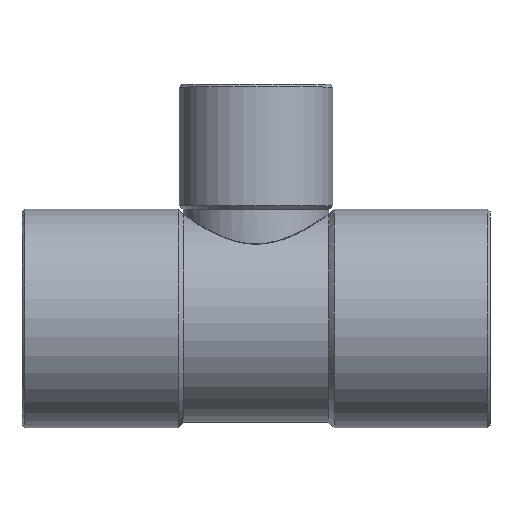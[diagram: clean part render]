
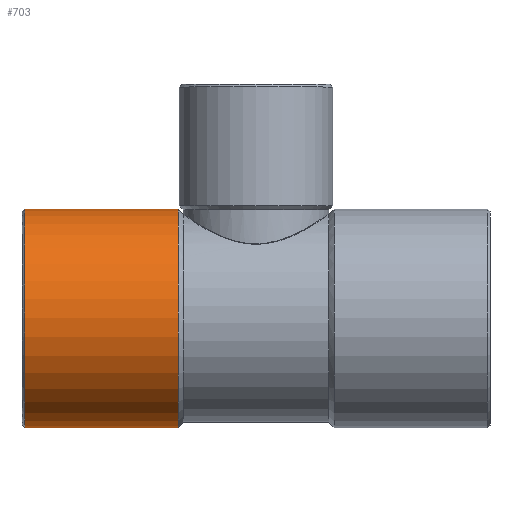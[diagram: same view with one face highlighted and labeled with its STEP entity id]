
A CAD part, top view. The second image highlights one B-rep face of the part: STEP entity #703.
In plain terms, the highlighted cylindrical face has radius 8.4 mm (diameter 16.8 mm), a partial arc.
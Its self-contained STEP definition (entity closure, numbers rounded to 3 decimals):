
#175=CARTESIAN_POINT('',(-6.0,8.4,0.0));
#176=VERTEX_POINT('',#175);
#185=CARTESIAN_POINT('',(-6.,-8.4,0.));
#186=VERTEX_POINT('',#185);
#187=CARTESIAN_POINT('',(-6.,0.0,0.0));
#188=DIRECTION('',(1.0,0.0,0.0));
#189=DIRECTION('',(0.0,1.0,0.0));
#190=AXIS2_PLACEMENT_3D('',#187,#188,#189);
#191=CIRCLE('',#190,8.4);
#192=EDGE_CURVE('',#176,#186,#191,.T.);
#672=CARTESIAN_POINT('',(-12.,0.0,0.0));
#673=DIRECTION('',(1.0,0.0,0.0));
#674=DIRECTION('',(0.0,1.0,0.0));
#675=AXIS2_PLACEMENT_3D('',#672,#673,#674);
#676=CYLINDRICAL_SURFACE('',#675,8.4);
#677=CARTESIAN_POINT('',(-17.8,8.4,0.));
#678=VERTEX_POINT('',#677);
#679=CARTESIAN_POINT('',(-17.8,8.4,0.));
#680=DIRECTION('',(1.0,0.0,0.0));
#681=VECTOR('',#680,11.8);
#682=LINE('',#679,#681);
#683=EDGE_CURVE('',#678,#176,#682,.T.);
#684=ORIENTED_EDGE('',*,*,#683,.F.);
#685=CARTESIAN_POINT('',(-17.8,-8.4,0.));
#686=VERTEX_POINT('',#685);
#687=CARTESIAN_POINT('',(-17.8,0.0,0.0));
#688=DIRECTION('',(-1.0,0.0,0.0));
#689=DIRECTION('',(0.0,-1.0,0.0));
#690=AXIS2_PLACEMENT_3D('',#687,#688,#689);
#691=CIRCLE('',#690,8.4);
#692=EDGE_CURVE('',#686,#678,#691,.T.);
#693=ORIENTED_EDGE('',*,*,#692,.F.);
#694=CARTESIAN_POINT('',(-6.,-8.4,0.));
#695=DIRECTION('',(-1.0,0.0,0.0));
#696=VECTOR('',#695,11.8);
#697=LINE('',#694,#696);
#698=EDGE_CURVE('',#186,#686,#697,.T.);
#699=ORIENTED_EDGE('',*,*,#698,.F.);
#700=ORIENTED_EDGE('',*,*,#192,.F.);
#701=EDGE_LOOP('',(#684,#693,#699,#700));
#702=FACE_OUTER_BOUND('',#701,.T.);
#703=ADVANCED_FACE('',(#702),#676,.T.);
